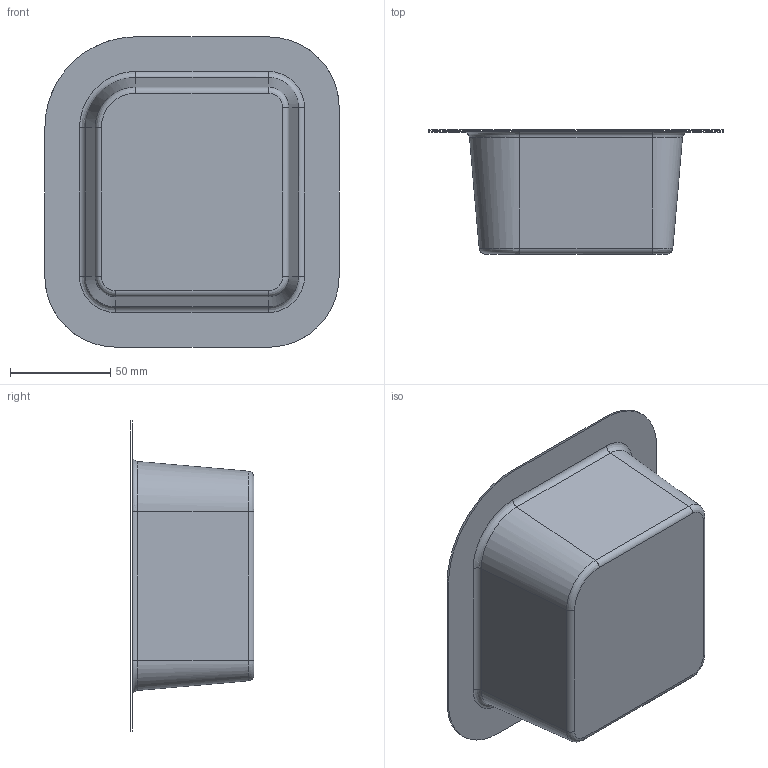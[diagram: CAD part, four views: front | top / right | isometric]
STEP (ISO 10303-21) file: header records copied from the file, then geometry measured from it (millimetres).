
FILE_DESCRIPTION(('CATIA V5 STEP Exchange'),'2;1');
FILE_NAME('C:\_Andres\UNIVERSIDAD\IQS\ASIGNATURAS\DAO\Controles\1617\c3\2inicio\Bonilla_Arrufat_control3_v4.stp','2017-02-17T14:22:01+00:00',('none'),('none'),'CATIA Version 5-6 Release 2014 SP1 HF18','CATIA V5 STEP AP203','none');
FILE_SCHEMA(('CONFIG_CONTROL_DESIGN'));
Length unit declared in the file: millimetre
Products named in the file (1): Bonilla_Arrufat_control3_v4
Bounding box: 146.63 x 61.77 x 154.63 mm (x, y, z)
Surface area: 64041.7 mm2 (no closed solid volume)
Topology: 0 solids, 2 shells, 27 faces, 80 edges, 57 vertices
Faces by surface type: bspline 16, cylinder 8, plane 3
Entity records: 1907 total; most frequent: CARTESIAN_POINT 1311, ORIENTED_EDGE 128, EDGE_CURVE 72, B_SPLINE_CURVE_WITH_KNOTS 54, DIRECTION 50, VERTEX_POINT 48, EDGE_LOOP 28, ADVANCED_FACE 27
